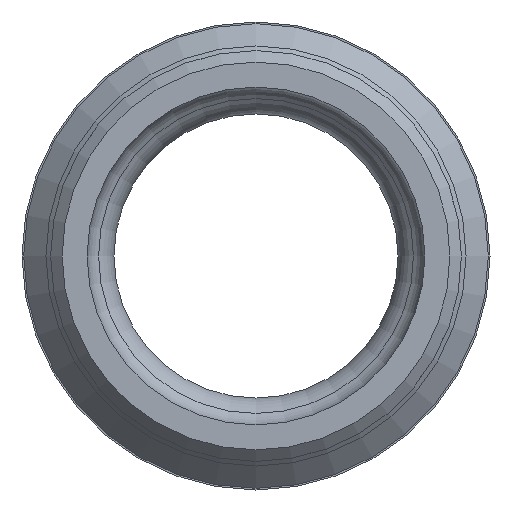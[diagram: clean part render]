
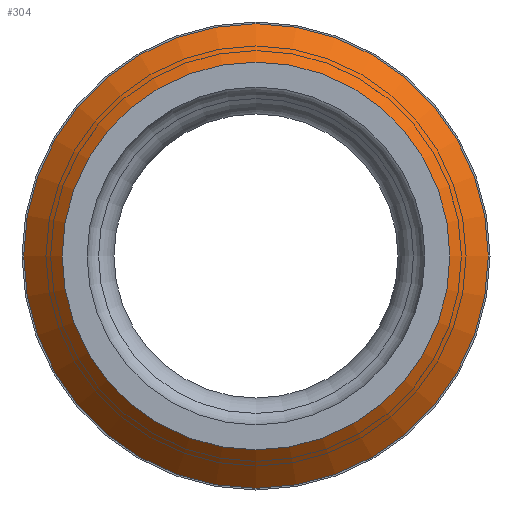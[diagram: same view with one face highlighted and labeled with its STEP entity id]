
A CAD part, front view. The second image highlights one B-rep face of the part: STEP entity #304.
In plain terms, the highlighted conical face has half-angle 45 degrees and reference radius 15.367 mm.
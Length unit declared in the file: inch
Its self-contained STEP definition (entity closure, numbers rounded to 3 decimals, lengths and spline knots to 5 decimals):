
#241=CARTESIAN_POINT('',(0.0,-7.6,-0.505));
#242=VERTEX_POINT('',#241);
#243=CARTESIAN_POINT('',(0.,-7.6,0.505));
#244=VERTEX_POINT('',#243);
#245=CARTESIAN_POINT('',(0.0,-7.6,0.0));
#246=DIRECTION('',(0.0,1.0,0.0));
#247=DIRECTION('',(0.0,0.0,-1.0));
#248=AXIS2_PLACEMENT_3D('',#245,#246,#247);
#249=CIRCLE('',#248,0.505);
#250=EDGE_CURVE('',#242,#244,#249,.T.);
#252=CARTESIAN_POINT('',(0.0,-7.6,0.0));
#253=DIRECTION('',(0.0,1.0,0.0));
#254=DIRECTION('',(0.0,0.0,-1.0));
#255=AXIS2_PLACEMENT_3D('',#252,#253,#254);
#256=CIRCLE('',#255,0.505);
#257=EDGE_CURVE('',#244,#242,#256,.T.);
#267=CARTESIAN_POINT('',(0.0,-7.5,-0.605));
#268=VERTEX_POINT('',#267);
#269=CARTESIAN_POINT('',(0.,-7.5,0.605));
#270=VERTEX_POINT('',#269);
#271=CARTESIAN_POINT('',(0.0,-7.5,0.0));
#272=DIRECTION('',(0.0,-1.0,0.0));
#273=DIRECTION('',(0.0,0.0,-1.0));
#274=AXIS2_PLACEMENT_3D('',#271,#272,#273);
#275=CIRCLE('',#274,0.605);
#276=EDGE_CURVE('',#268,#270,#275,.T.);
#278=CARTESIAN_POINT('',(0.0,-7.5,0.0));
#279=DIRECTION('',(0.0,-1.0,0.0));
#280=DIRECTION('',(0.0,0.0,-1.0));
#281=AXIS2_PLACEMENT_3D('',#278,#279,#280);
#282=CIRCLE('',#281,0.605);
#283=EDGE_CURVE('',#270,#268,#282,.T.);
#291=CARTESIAN_POINT('',(0.0,-7.5,0.0));
#292=DIRECTION('',(0.,1.0,0.));
#293=DIRECTION('',(0.0,0.0,-1.0));
#294=AXIS2_PLACEMENT_3D('',#291,#292,#293);
#295=CONICAL_SURFACE('',#294,0.605,45.);
#296=ORIENTED_EDGE('',*,*,#276,.T.);
#297=ORIENTED_EDGE('',*,*,#283,.T.);
#298=EDGE_LOOP('',(#296,#297));
#299=FACE_OUTER_BOUND('',#298,.T.);
#300=ORIENTED_EDGE('',*,*,#250,.T.);
#301=ORIENTED_EDGE('',*,*,#257,.T.);
#302=EDGE_LOOP('',(#300,#301));
#303=FACE_BOUND('',#302,.T.);
#304=ADVANCED_FACE('',(#299,#303),#295,.T.);
